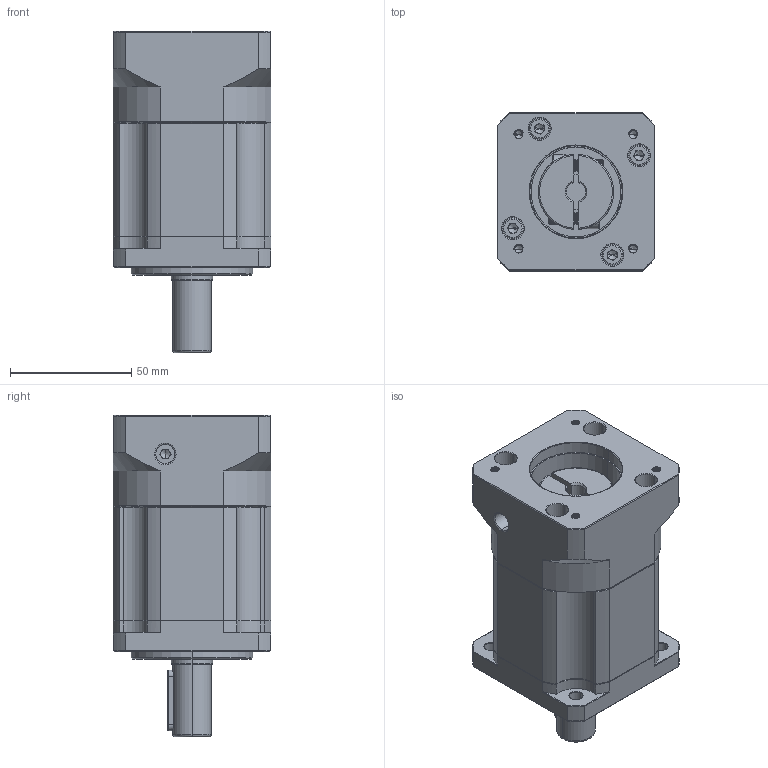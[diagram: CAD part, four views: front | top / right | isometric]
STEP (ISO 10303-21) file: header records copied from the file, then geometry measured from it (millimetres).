
FILE_DESCRIPTION (( 'STEP AP214' ), '1' );
FILE_NAME ('ZB060-D16-L2-P2-8-38.1-47.14X47.14-M4.step', '2023-08-16T07:07:16', ( '' ), ( '' ), 'SwSTEP 2.0', 'SolidWorks 2016', '' );
FILE_SCHEMA (( 'AUTOMOTIVE_DESIGN' ));
Length unit declared in the file: millimetre
Products named in the file (1): ZB060-D16-L2-P2-8-38.1-47.14X47.14-M4
Bounding box: 65 x 65 x 132.5 mm (x, y, z)
Volume: 335939.6 mm3; surface area: 58481 mm2
Topology: 6 solids, 6 shells, 2154 faces, 5800 edges, 3734 vertices
Faces by surface type: plane 1059, bspline 397, cylinder 381, cone 283, torus 34
Entity records: 114844 total; most frequent: CARTESIAN_POINT 40229, ORIENTED_EDGE 11540, DIRECTION 9090, EDGE_CURVE 5770, VERTEX_POINT 3734, VECTOR 3636, LINE 3636, AXIS2_PLACEMENT_3D 2727
